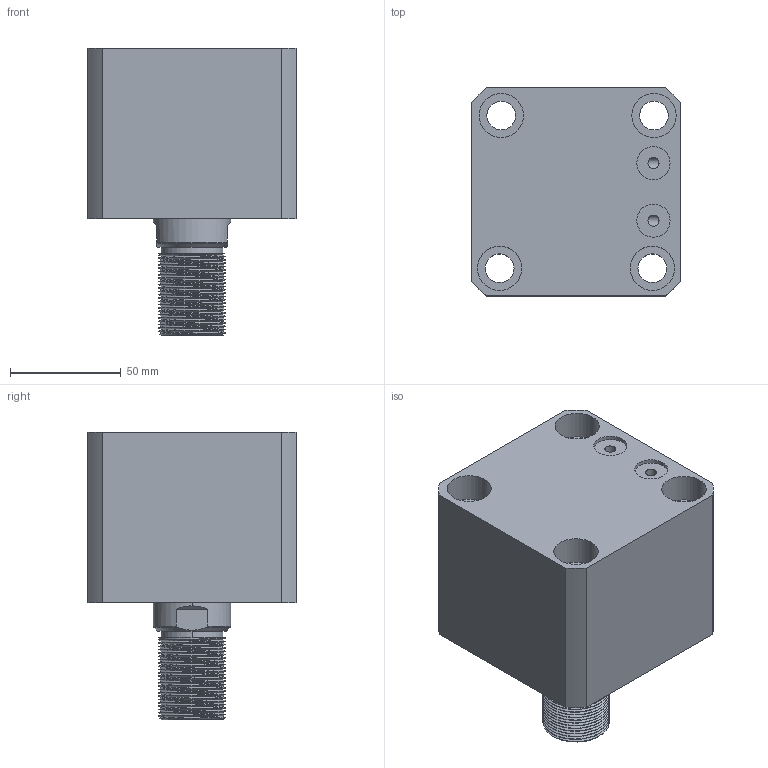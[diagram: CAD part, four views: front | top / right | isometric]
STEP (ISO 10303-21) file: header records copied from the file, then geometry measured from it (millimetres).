
FILE_DESCRIPTION (( 'STEP AP214' ), '1' );
FILE_NAME ('chtb-sdmb63x10w_asm.STEP', '2018-05-18T10:57:39', ( 'Windows' ), ( 'Microsoft' ), 'SwSTEP 2.0', 'SolidWorks 2015', '' );
FILE_SCHEMA (( 'AUTOMOTIVE_DESIGN' ));
Length unit declared in the file: millimetre
Products named in the file (4): CHTB-SDMB63X10NBT; CHTB63X10WHSG; CHTB-63QG; chtb-sdmb63x10w_asm
Assembly tree (3 placements, depth 2):
  chtb-sdmb63x10w_asm
    CHTB-63QG
    CHTB63X10WHSG
    CHTB-SDMB63X10NBT
Bounding box: 94 x 94 x 130 mm (x, y, z)
Volume: 630371.9 mm3; surface area: 116193 mm2
Topology: 3 solids, 3 shells, 218 faces, 628 edges, 427 vertices
Faces by surface type: cylinder 156, plane 33, bspline 14, cone 9, torus 6
Entity records: 22278 total; most frequent: CARTESIAN_POINT 17042, ORIENTED_EDGE 1248, DIRECTION 869, EDGE_CURVE 624, VERTEX_POINT 427, AXIS2_PLACEMENT_3D 339, EDGE_LOOP 251, ADVANCED_FACE 218
